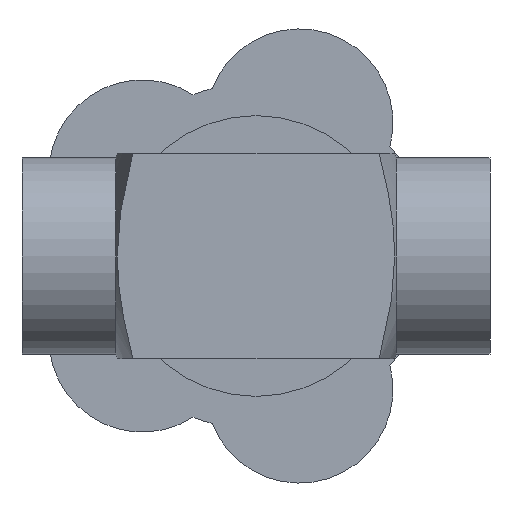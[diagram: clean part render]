
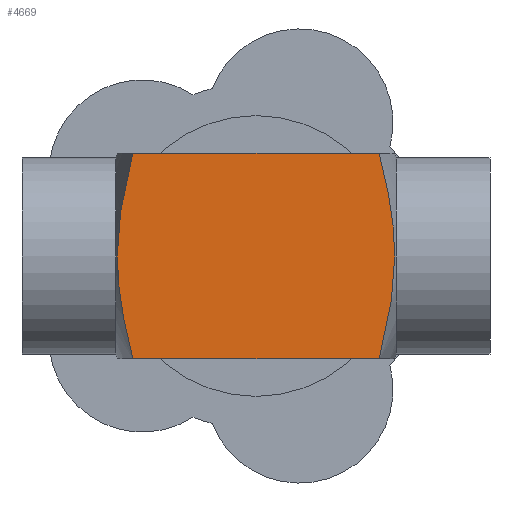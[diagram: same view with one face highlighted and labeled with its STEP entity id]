
A CAD part, front view. The second image highlights one B-rep face of the part: STEP entity #4669.
In plain terms, the highlighted planar face has unit normal (0, -1, 0).
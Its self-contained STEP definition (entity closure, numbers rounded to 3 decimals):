
#21=(
BOUNDED_CURVE()
B_SPLINE_CURVE(2,(#8120,#8121,#8122),.UNSPECIFIED.,.F.,.F.)
B_SPLINE_CURVE_WITH_KNOTS((3,3),(-14.56,-9.937),
 .UNSPECIFIED.)
CURVE()
GEOMETRIC_REPRESENTATION_ITEM()
RATIONAL_B_SPLINE_CURVE((3.998,4.826,4.826))
REPRESENTATION_ITEM('')
);
#24=(
BOUNDED_CURVE()
B_SPLINE_CURVE(2,(#8130,#8131,#8132),.UNSPECIFIED.,.F.,.F.)
B_SPLINE_CURVE_WITH_KNOTS((3,3),(-9.937,-5.314),
 .UNSPECIFIED.)
CURVE()
GEOMETRIC_REPRESENTATION_ITEM()
RATIONAL_B_SPLINE_CURVE((4.826,4.826,3.998))
REPRESENTATION_ITEM('')
);
#27=(
BOUNDED_CURVE()
B_SPLINE_CURVE(2,(#8193,#8194,#8195),.UNSPECIFIED.,.F.,.F.)
B_SPLINE_CURVE_WITH_KNOTS((3,3),(-15.047,-10.282),
 .UNSPECIFIED.)
CURVE()
GEOMETRIC_REPRESENTATION_ITEM()
RATIONAL_B_SPLINE_CURVE((4.119,4.972,4.972))
REPRESENTATION_ITEM('')
);
#28=(
BOUNDED_CURVE()
B_SPLINE_CURVE(2,(#8196,#8197,#8198),.UNSPECIFIED.,.F.,.F.)
B_SPLINE_CURVE_WITH_KNOTS((3,3),(-10.282,-5.517),
 .UNSPECIFIED.)
CURVE()
GEOMETRIC_REPRESENTATION_ITEM()
RATIONAL_B_SPLINE_CURVE((4.972,4.972,4.119))
REPRESENTATION_ITEM('')
);
#529=FACE_OUTER_BOUND('',#797,.T.);
#797=EDGE_LOOP('',(#4038,#4039,#4040,#4041,#4042,#4043));
#1215=LINE('',#7896,#1628);
#1288=LINE('',#8163,#1701);
#1628=VECTOR('',#5554,10.);
#1701=VECTOR('',#5813,10.);
#2039=VERTEX_POINT('',#7891);
#2040=VERTEX_POINT('',#7895);
#2111=VERTEX_POINT('',#8118);
#2112=VERTEX_POINT('',#8119);
#2123=VERTEX_POINT('',#8162);
#2132=VERTEX_POINT('',#8192);
#2634=EDGE_CURVE('',#2039,#2040,#1215,.T.);
#2738=EDGE_CURVE('',#2111,#2112,#21,.T.);
#2741=EDGE_CURVE('',#2112,#2040,#24,.T.);
#2755=EDGE_CURVE('',#2123,#2111,#1288,.T.);
#2768=EDGE_CURVE('',#2039,#2132,#27,.T.);
#2769=EDGE_CURVE('',#2132,#2123,#28,.T.);
#4038=ORIENTED_EDGE('',*,*,#2634,.F.);
#4039=ORIENTED_EDGE('',*,*,#2768,.T.);
#4040=ORIENTED_EDGE('',*,*,#2769,.T.);
#4041=ORIENTED_EDGE('',*,*,#2755,.T.);
#4042=ORIENTED_EDGE('',*,*,#2738,.T.);
#4043=ORIENTED_EDGE('',*,*,#2741,.T.);
#4189=PLANE('',#4939);
#4669=ADVANCED_FACE('',(#529),#4189,.T.);
#4939=AXIS2_PLACEMENT_3D('',#8205,#5852,#5853);
#5554=DIRECTION('',(1.,0.,0.));
#5813=DIRECTION('',(1.,0.,0.));
#5852=DIRECTION('center_axis',(0.,-1.,0.));
#5853=DIRECTION('ref_axis',(0.,0.,-1.));
#7891=CARTESIAN_POINT('',(-59.067,-67.832,11.));
#7895=CARTESIAN_POINT('',(-32.747,-67.832,11.));
#7896=CARTESIAN_POINT('',(-60.907,-67.832,11.));
#8118=CARTESIAN_POINT('',(-32.747,-67.832,-11.));
#8119=CARTESIAN_POINT('',(-31.089,-67.832,0.));
#8120=CARTESIAN_POINT('Ctrl Pts',(-32.747,-67.832,-11.));
#8121=CARTESIAN_POINT('Ctrl Pts',(-31.089,-67.832,-4.556));
#8122=CARTESIAN_POINT('Ctrl Pts',(-31.089,-67.832,0.));
#8130=CARTESIAN_POINT('Ctrl Pts',(-31.089,-67.832,0.));
#8131=CARTESIAN_POINT('Ctrl Pts',(-31.089,-67.832,4.556));
#8132=CARTESIAN_POINT('Ctrl Pts',(-32.747,-67.832,11.));
#8162=CARTESIAN_POINT('',(-59.067,-67.832,-11.));
#8163=CARTESIAN_POINT('',(-60.907,-67.832,-11.));
#8192=CARTESIAN_POINT('',(-60.725,-67.832,0.));
#8193=CARTESIAN_POINT('Ctrl Pts',(-59.067,-67.832,11.));
#8194=CARTESIAN_POINT('Ctrl Pts',(-60.725,-67.832,4.556));
#8195=CARTESIAN_POINT('Ctrl Pts',(-60.725,-67.832,0.));
#8196=CARTESIAN_POINT('Ctrl Pts',(-60.725,-67.832,0.));
#8197=CARTESIAN_POINT('Ctrl Pts',(-60.725,-67.832,-4.556));
#8198=CARTESIAN_POINT('Ctrl Pts',(-59.067,-67.832,-11.));
#8205=CARTESIAN_POINT('Origin',(-60.907,-67.832,-11.));
